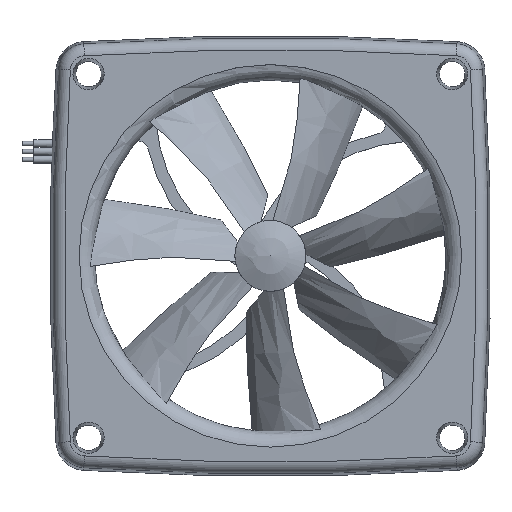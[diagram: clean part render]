
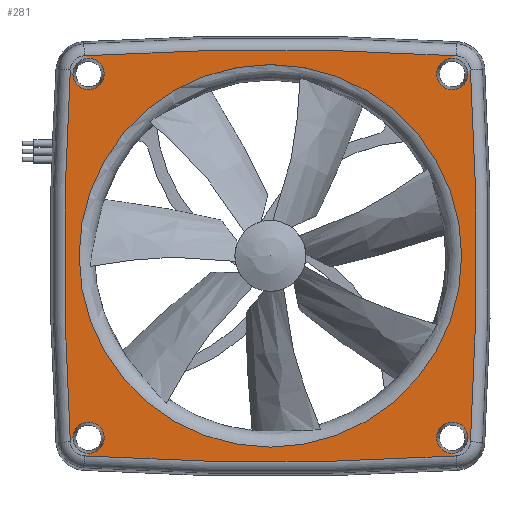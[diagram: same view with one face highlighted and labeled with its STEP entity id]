
A CAD part, top view. The second image highlights one B-rep face of the part: STEP entity #281.
In plain terms, the highlighted planar face has unit normal (0, 0, 1).
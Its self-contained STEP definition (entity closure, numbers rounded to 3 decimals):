
#281 = ADVANCED_FACE( '', ( #494, #495, #496, #497, #498, #499 ), #500, .T. );
#494 = FACE_BOUND( '', #1497, .T. );
#495 = FACE_OUTER_BOUND( '', #1498, .T. );
#496 = FACE_BOUND( '', #1499, .T. );
#497 = FACE_BOUND( '', #1500, .T. );
#498 = FACE_BOUND( '', #1501, .T. );
#499 = FACE_BOUND( '', #1502, .T. );
#500 = PLANE( '', #1503 );
#1497 = EDGE_LOOP( '', ( #2115 ) );
#1498 = EDGE_LOOP( '', ( #2116, #2117, #2118, #2119, #2120, #2121, #2122, #2123 ) );
#1499 = EDGE_LOOP( '', ( #2124 ) );
#1500 = EDGE_LOOP( '', ( #2125 ) );
#1501 = EDGE_LOOP( '', ( #2126 ) );
#1502 = EDGE_LOOP( '', ( #2127 ) );
#1503 = AXIS2_PLACEMENT_3D( '', #2128, #2129, #2130 );
#2115 = ORIENTED_EDGE( '', *, *, #2778, .F. );
#2116 = ORIENTED_EDGE( '', *, *, #2779, .T. );
#2117 = ORIENTED_EDGE( '', *, *, #2780, .T. );
#2118 = ORIENTED_EDGE( '', *, *, #2781, .T. );
#2119 = ORIENTED_EDGE( '', *, *, #2782, .T. );
#2120 = ORIENTED_EDGE( '', *, *, #2783, .T. );
#2121 = ORIENTED_EDGE( '', *, *, #2784, .T. );
#2122 = ORIENTED_EDGE( '', *, *, #2785, .T. );
#2123 = ORIENTED_EDGE( '', *, *, #2786, .T. );
#2124 = ORIENTED_EDGE( '', *, *, #2706, .F. );
#2125 = ORIENTED_EDGE( '', *, *, #2787, .F. );
#2126 = ORIENTED_EDGE( '', *, *, #2788, .F. );
#2127 = ORIENTED_EDGE( '', *, *, #2777, .F. );
#2128 = CARTESIAN_POINT( '', ( 15.631, -215.744, 14. ) );
#2129 = DIRECTION( '', ( 0., 0., 1. ) );
#2130 = DIRECTION( '', ( 1., 0., 0. ) );
#2706 = EDGE_CURVE( '', #3080, #3080, #3081, .T. );
#2777 = EDGE_CURVE( '', #3201, #3201, #3202, .T. );
#2778 = EDGE_CURVE( '', #3203, #3203, #3204, .T. );
#2779 = EDGE_CURVE( '', #3205, #3206, #3207, .T. );
#2780 = EDGE_CURVE( '', #3206, #3208, #3209, .T. );
#2781 = EDGE_CURVE( '', #3208, #3210, #3211, .T. );
#2782 = EDGE_CURVE( '', #3210, #3212, #3213, .T. );
#2783 = EDGE_CURVE( '', #3212, #3214, #3215, .T. );
#2784 = EDGE_CURVE( '', #3214, #3216, #3217, .T. );
#2785 = EDGE_CURVE( '', #3216, #3218, #3219, .T. );
#2786 = EDGE_CURVE( '', #3218, #3205, #3220, .T. );
#2787 = EDGE_CURVE( '', #3221, #3221, #3222, .T. );
#2788 = EDGE_CURVE( '', #3223, #3223, #3224, .T. );
#3080 = VERTEX_POINT( '', #4090 );
#3081 = CIRCLE( '', #4091, 2.639 );
#3201 = VERTEX_POINT( '', #4336 );
#3202 = CIRCLE( '', #4337, 2.639 );
#3203 = VERTEX_POINT( '', #4338 );
#3204 = CIRCLE( '', #4339, 32.35 );
#3205 = VERTEX_POINT( '', #4340 );
#3206 = VERTEX_POINT( '', #4341 );
#3207 = CIRCLE( '', #4342, 2.58 );
#3208 = VERTEX_POINT( '', #4343 );
#3209 = CIRCLE( '', #4344, 497.58 );
#3210 = VERTEX_POINT( '', #4345 );
#3211 = CIRCLE( '', #4346, 2.58 );
#3212 = VERTEX_POINT( '', #4347 );
#3213 = CIRCLE( '', #4348, 497.58 );
#3214 = VERTEX_POINT( '', #4349 );
#3215 = CIRCLE( '', #4350, 2.58 );
#3216 = VERTEX_POINT( '', #4351 );
#3217 = CIRCLE( '', #4352, 497.58 );
#3218 = VERTEX_POINT( '', #4353 );
#3219 = CIRCLE( '', #4354, 2.58 );
#3220 = CIRCLE( '', #4355, 497.58 );
#3221 = VERTEX_POINT( '', #4356 );
#3222 = CIRCLE( '', #4357, 2.639 );
#3223 = VERTEX_POINT( '', #4358 );
#3224 = CIRCLE( '', #4359, 2.639 );
#4090 = CARTESIAN_POINT( '', ( -28.111, -30.75, 14. ) );
#4091 = AXIS2_PLACEMENT_3D( '', #4651, #4652, #4653 );
#4336 = CARTESIAN_POINT( '', ( 33.389, -30.75, 14. ) );
#4337 = AXIS2_PLACEMENT_3D( '', #4810, #4811, #4812 );
#4338 = CARTESIAN_POINT( '', ( -32.35, 0., 14. ) );
#4339 = AXIS2_PLACEMENT_3D( '', #4813, #4814, #4815 );
#4340 = CARTESIAN_POINT( '', ( 33.836, 31.425, 14. ) );
#4341 = CARTESIAN_POINT( '', ( 31.425, 33.836, 14. ) );
#4342 = AXIS2_PLACEMENT_3D( '', #4816, #4817, #4818 );
#4343 = CARTESIAN_POINT( '', ( -31.425, 33.836, 14. ) );
#4344 = AXIS2_PLACEMENT_3D( '', #4819, #4820, #4821 );
#4345 = CARTESIAN_POINT( '', ( -33.836, 31.425, 14. ) );
#4346 = AXIS2_PLACEMENT_3D( '', #4822, #4823, #4824 );
#4347 = CARTESIAN_POINT( '', ( -33.836, -31.425, 14. ) );
#4348 = AXIS2_PLACEMENT_3D( '', #4825, #4826, #4827 );
#4349 = CARTESIAN_POINT( '', ( -31.425, -33.836, 14. ) );
#4350 = AXIS2_PLACEMENT_3D( '', #4828, #4829, #4830 );
#4351 = CARTESIAN_POINT( '', ( 31.425, -33.836, 14. ) );
#4352 = AXIS2_PLACEMENT_3D( '', #4831, #4832, #4833 );
#4353 = CARTESIAN_POINT( '', ( 33.836, -31.425, 14. ) );
#4354 = AXIS2_PLACEMENT_3D( '', #4834, #4835, #4836 );
#4355 = AXIS2_PLACEMENT_3D( '', #4837, #4838, #4839 );
#4356 = CARTESIAN_POINT( '', ( -28.111, 30.75, 14. ) );
#4357 = AXIS2_PLACEMENT_3D( '', #4840, #4841, #4842 );
#4358 = CARTESIAN_POINT( '', ( 33.389, 30.75, 14. ) );
#4359 = AXIS2_PLACEMENT_3D( '', #4843, #4844, #4845 );
#4651 = CARTESIAN_POINT( '', ( -30.75, -30.75, 14. ) );
#4652 = DIRECTION( '', ( 0., 0., 1. ) );
#4653 = DIRECTION( '', ( 1., 0., 0. ) );
#4810 = CARTESIAN_POINT( '', ( 30.75, -30.75, 14. ) );
#4811 = DIRECTION( '', ( 0., 0., 1. ) );
#4812 = DIRECTION( '', ( 1., 0., 0. ) );
#4813 = CARTESIAN_POINT( '', ( 0., 0., 14. ) );
#4814 = DIRECTION( '', ( 0., 0., 1. ) );
#4815 = DIRECTION( '', ( -1., 0., 0. ) );
#4816 = CARTESIAN_POINT( '', ( 31.262, 31.262, 14. ) );
#4817 = DIRECTION( '', ( 0., 0., 1. ) );
#4818 = DIRECTION( '', ( 1., 0., 0. ) );
#4819 = CARTESIAN_POINT( '', ( 0., -462.75, 14. ) );
#4820 = DIRECTION( '', ( 0., 0., 1. ) );
#4821 = DIRECTION( '', ( 1., 0., 0. ) );
#4822 = CARTESIAN_POINT( '', ( -31.262, 31.262, 14. ) );
#4823 = DIRECTION( '', ( 0., 0., 1. ) );
#4824 = DIRECTION( '', ( 1., 0., 0. ) );
#4825 = CARTESIAN_POINT( '', ( 462.75, 0., 14. ) );
#4826 = DIRECTION( '', ( 0., 0., 1. ) );
#4827 = DIRECTION( '', ( 1., 0., 0. ) );
#4828 = CARTESIAN_POINT( '', ( -31.262, -31.262, 14. ) );
#4829 = DIRECTION( '', ( 0., 0., 1. ) );
#4830 = DIRECTION( '', ( 1., 0., 0. ) );
#4831 = CARTESIAN_POINT( '', ( 0., 462.75, 14. ) );
#4832 = DIRECTION( '', ( 0., 0., 1. ) );
#4833 = DIRECTION( '', ( 1., 0., 0. ) );
#4834 = CARTESIAN_POINT( '', ( 31.262, -31.262, 14. ) );
#4835 = DIRECTION( '', ( 0., 0., 1. ) );
#4836 = DIRECTION( '', ( 1., 0., 0. ) );
#4837 = CARTESIAN_POINT( '', ( -462.75, 0., 14. ) );
#4838 = DIRECTION( '', ( 0., 0., 1. ) );
#4839 = DIRECTION( '', ( 1., 0., 0. ) );
#4840 = CARTESIAN_POINT( '', ( -30.75, 30.75, 14. ) );
#4841 = DIRECTION( '', ( 0., 0., 1. ) );
#4842 = DIRECTION( '', ( 1., 0., 0. ) );
#4843 = CARTESIAN_POINT( '', ( 30.75, 30.75, 14. ) );
#4844 = DIRECTION( '', ( 0., 0., 1. ) );
#4845 = DIRECTION( '', ( 1., 0., 0. ) );
